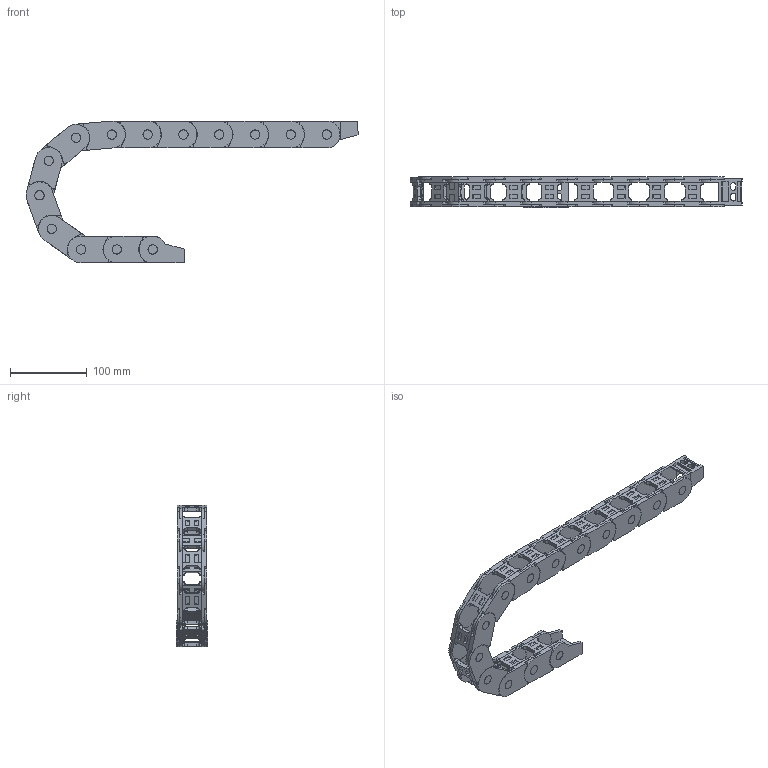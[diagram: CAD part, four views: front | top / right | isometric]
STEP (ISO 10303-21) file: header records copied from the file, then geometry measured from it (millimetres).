
FILE_DESCRIPTION((''),'2;1');
FILE_NAME('QS-25X25-R75_ASM','2022-06-09T09:00:51',('admin'),(''),'CREO PARAMETRIC BY PTC INC, 2021164','CREO PARAMETRIC BY PTC INC, 2021164','');
FILE_SCHEMA(('CONFIG_CONTROL_DESIGN','GEOMETRIC_VALIDATION_PROPERTIES_MIM'));
Length unit declared in the file: millimetre
Products named in the file (7): 25XL-L; 25XL-R; PIAN-25; ASM0001_ASM; 25X25-LTT-1; 25X25-LTT-2; QS-25X25-R75_ASM
Assembly tree (19 placements, depth 3):
  QS-25X25-R75_ASM
    ASM0001_ASM  x13
      25XL-L
      25XL-R
      PIAN-25
    25X25-LTT-1
    25X25-LTT-2
Bounding box: 432.08 x 40.6 x 184.55 mm (x, y, z)
Volume: 377280.2 mm3; surface area: 242241.9 mm2
Topology: 54 solids, 54 shells, 2112 faces, 6014 edges, 4040 vertices
Faces by surface type: plane 1624, cylinder 488
Entity records: 8145 total; most frequent: CARTESIAN_POINT 1297, DIRECTION 1152, ORIENTED_EDGE 1144, EDGE_CURVE 572, VECTOR 448, LINE 448, VERTEX_POINT 388, AXIS2_PLACEMENT_3D 352
